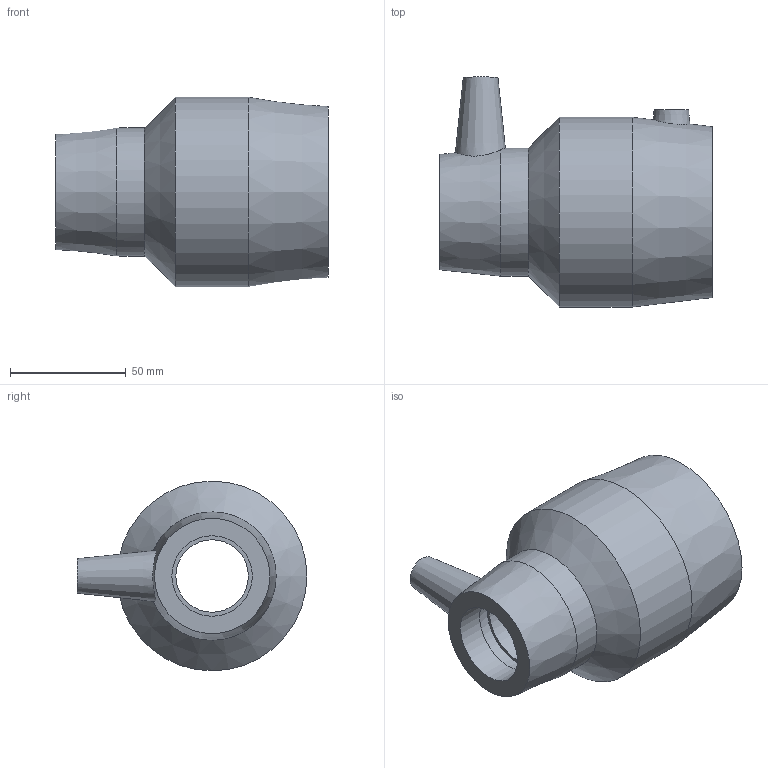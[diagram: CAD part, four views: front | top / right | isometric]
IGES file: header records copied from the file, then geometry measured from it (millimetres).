
Global section: file name: 5911BU03020013.ipt; native system: Autodesk Inventor 2019; preprocessor: unknown; author: KIM; date: 20210830.101028; units: inch
Bounding box: 117.86 x 99.44 x 82.04 mm (x, y, z)
Volume: 241987.3 mm3; surface area: 52353.5 mm2
Topology: 1 solids, 1 shells, 32 faces, 79 edges, 55 vertices
Faces by surface type: plane 12, revolution 11, cone 5, cylinder 4
Full cylindrical faces by diameter (mm): 4 x2, 55.372 x1, 82.042 x1
